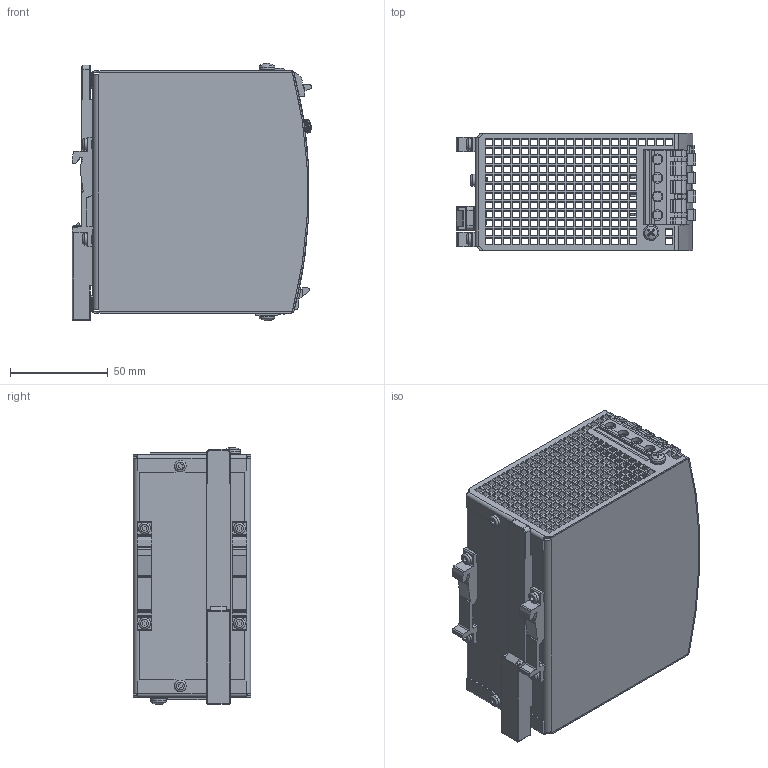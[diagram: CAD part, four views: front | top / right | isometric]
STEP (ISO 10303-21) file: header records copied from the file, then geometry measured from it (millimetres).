
FILE_DESCRIPTION((''),'2;1');
FILE_NAME('C:\Users\rahns\Desktop\Marketing\SD1CS10-241-S1SR1_SC_2014-07-03.stp','2014-07-03T12:09:49',('rahns'),(''),'Autodesk Inventor 2009','Autodesk Inventor 2009','');
FILE_SCHEMA(('AUTOMOTIVE_DESIGN { 1 0 10303 214 1 1 1 1 }'));
Length unit declared in the file: millimetre
Products named in the file (12): 360; HOUSING COVER 360; HOUSING BODY 360; T HOLDER; WASHER 4; SCREW 4x8; SLIDER; SCREW 3x6; POTENTIOMETER COVER; LED GN; TERMINAL 3P R9,52; TERMINAL 4P R9,52
Assembly tree (19 placements, depth 2):
  360
    HOUSING COVER 360
    HOUSING BODY 360
    T HOLDER  x2
    WASHER 4  x2
    SCREW 4x8  x2
    SLIDER
    SCREW 3x6  x6
    POTENTIOMETER COVER
    LED GN
    TERMINAL 3P R9,52
    TERMINAL 4P R9,52
Bounding box: 122.65 x 60 x 131.73 mm (x, y, z)
Volume: 94302.5 mm3; surface area: 117929.3 mm2
Topology: 19 solids, 19 shells, 3082 faces, 8749 edges, 5792 vertices
Faces by surface type: plane 2505, cylinder 262, bspline 237, cone 32, torus 32, sphere 14
Full cylindrical faces by diameter (mm): 1.25 x3, 2.45 x2, 3 x6, 3.1 x4, 3.621 x2, 4 x2, 4.355 x1, 4.5 x2, 4.6 x1, 5.5 x7, 6 x6
Entity records: 174586 total; most frequent: CARTESIAN_POINT 98055, ORIENTED_EDGE 16530, DIRECTION 13489, EDGE_CURVE 8265, VECTOR 6999, LINE 6999, VERTEX_POINT 5481, EDGE_LOOP 3910
